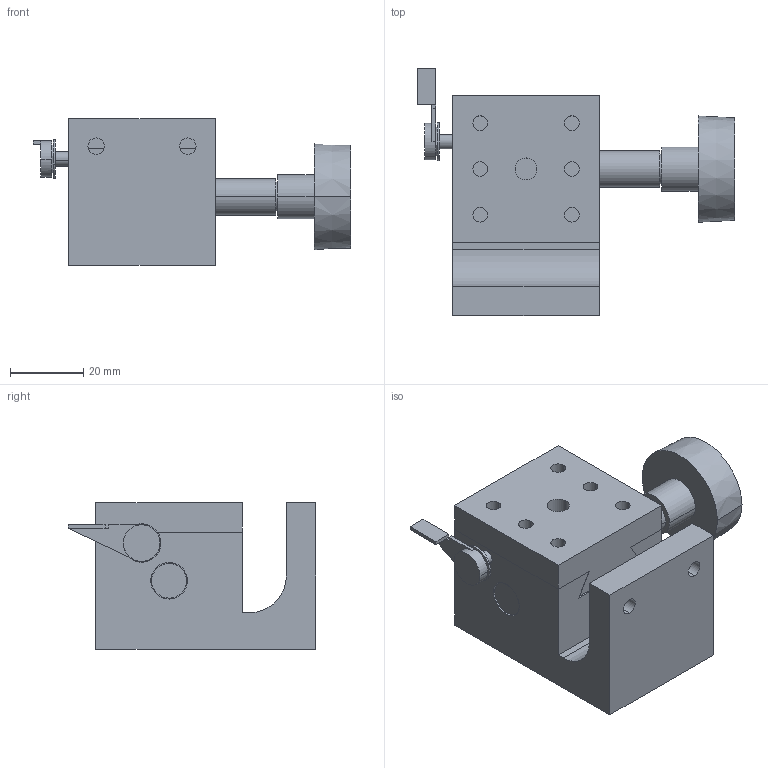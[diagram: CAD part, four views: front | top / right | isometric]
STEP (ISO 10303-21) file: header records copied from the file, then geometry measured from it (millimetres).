
FILE_DESCRIPTION (( 'STEP AP203' ), '1' );
FILE_NAME ('LV-412.STEP', '2008-03-03T08:50:46', ( '' ), ( '' ), 'SwSTEP 2.0', 'SolidWorks 2007', '' );
FILE_SCHEMA (( 'CONFIG_CONTROL_DESIGN' ));
Length unit declared in the file: millimetre
Products named in the file (3): LV-412-2; LV-412; LV-412-1
Assembly tree (2 placements, depth 2):
  LV-412
    LV-412-2
    LV-412-1
Bounding box: 86.7 x 67.5 x 40 mm (x, y, z)
Volume: 89688.3 mm3; surface area: 24337.1 mm2
Topology: 2 solids, 2 shells, 97 faces, 237 edges, 157 vertices
Faces by surface type: plane 54, cylinder 41, cone 2
Entity records: 3217 total; most frequent: DIRECTION 530, CARTESIAN_POINT 496, ORIENTED_EDGE 474, EDGE_CURVE 237, AXIS2_PLACEMENT_3D 191, VERTEX_POINT 157, VECTOR 148, LINE 148
